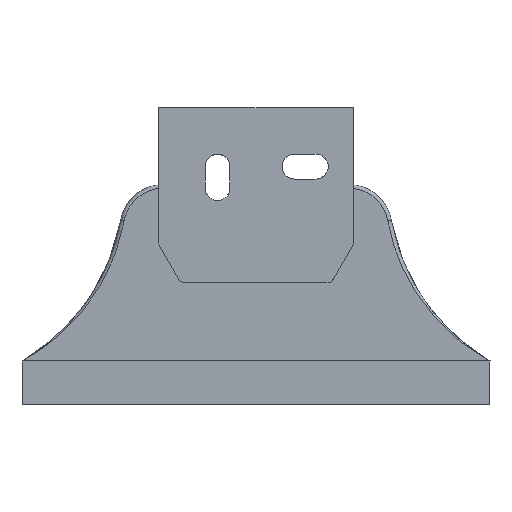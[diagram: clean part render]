
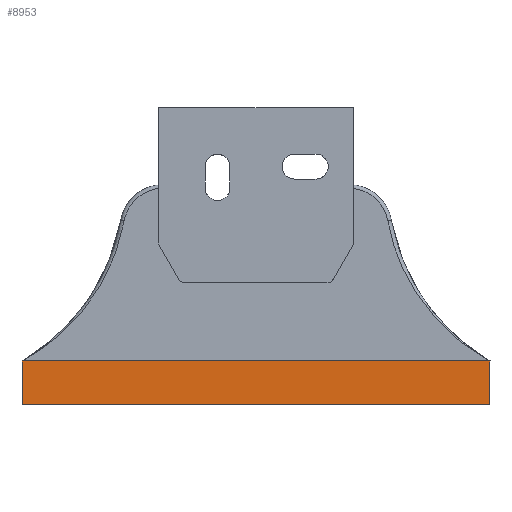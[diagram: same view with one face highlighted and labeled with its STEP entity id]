
A CAD part, front view. The second image highlights one B-rep face of the part: STEP entity #8953.
In plain terms, the highlighted planar face has unit normal (0, -1, -0.009).
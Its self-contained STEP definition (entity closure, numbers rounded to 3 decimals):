
#177 = EDGE_CURVE ( 'NONE', #7865, #3411, #4032, .T. ) ;
#545 = LINE ( 'NONE', #3553, #6898 ) ;
#658 = CARTESIAN_POINT ( 'NONE',  ( 0., -7.5, 0. ) ) ;
#964 = CARTESIAN_POINT ( 'NONE',  ( 32.448, -7.448, -6. ) ) ;
#1019 = LINE ( 'NONE', #7124, #8627 ) ;
#1179 = DIRECTION ( 'NONE',  ( 0., -1., -0.009 ) ) ;
#1181 = EDGE_CURVE ( 'NONE', #7865, #3579, #1019, .T. ) ;
#1374 = VERTEX_POINT ( 'NONE', #4346 ) ;
#1579 = CARTESIAN_POINT ( 'NONE',  ( -32.5, -7.5, 0. ) ) ;
#1676 = DIRECTION ( 'NONE',  ( 0., 0.009, -1. ) ) ;
#1920 = DIRECTION ( 'NONE',  ( 1., 0., 0. ) ) ;
#2182 = DIRECTION ( 'NONE',  ( 1., 0., 0. ) ) ;
#2606 = EDGE_LOOP ( 'NONE', ( #8534, #2847, #6159, #4406 ) ) ;
#2847 = ORIENTED_EDGE ( 'NONE', *, *, #1181, .F. ) ;
#3277 = AXIS2_PLACEMENT_3D ( 'NONE', #1579, #1179, #1676 ) ;
#3411 = VERTEX_POINT ( 'NONE', #964 ) ;
#3553 = CARTESIAN_POINT ( 'NONE',  ( 32.495, -7.495, -0.567 ) ) ;
#3579 = VERTEX_POINT ( 'NONE', #6607 ) ;
#4032 = LINE ( 'NONE', #7844, #8911 ) ;
#4172 = PLANE ( 'NONE',  #3277 ) ;
#4346 = CARTESIAN_POINT ( 'NONE',  ( 32.5, -7.5, 0. ) ) ;
#4406 = ORIENTED_EDGE ( 'NONE', *, *, #8745, .T. ) ;
#5084 = VECTOR ( 'NONE', #2182, 1000. ) ;
#6159 = ORIENTED_EDGE ( 'NONE', *, *, #177, .T. ) ;
#6607 = CARTESIAN_POINT ( 'NONE',  ( -32.5, -7.5, 0. ) ) ;
#6854 = EDGE_CURVE ( 'NONE', #3579, #1374, #8937, .T. ) ;
#6898 = VECTOR ( 'NONE', #7858, 1000. ) ;
#7124 = CARTESIAN_POINT ( 'NONE',  ( -32.499, -7.499, -0.131 ) ) ;
#7678 = CARTESIAN_POINT ( 'NONE',  ( -32.448, -7.448, -6. ) ) ;
#7844 = CARTESIAN_POINT ( 'NONE',  ( 0., -7.448, -6. ) ) ;
#7858 = DIRECTION ( 'NONE',  ( 0.009, -0.009, 1. ) ) ;
#7865 = VERTEX_POINT ( 'NONE', #7678 ) ;
#8409 = DIRECTION ( 'NONE',  ( -0.009, -0.009, 1. ) ) ;
#8534 = ORIENTED_EDGE ( 'NONE', *, *, #6854, .F. ) ;
#8627 = VECTOR ( 'NONE', #8409, 1000. ) ;
#8745 = EDGE_CURVE ( 'NONE', #3411, #1374, #545, .T. ) ;
#8911 = VECTOR ( 'NONE', #1920, 1000. ) ;
#8937 = LINE ( 'NONE', #658, #5084 ) ;
#8953 = ADVANCED_FACE ( 'NONE', ( #9167 ), #4172, .T. ) ;
#9167 = FACE_OUTER_BOUND ( 'NONE', #2606, .T. ) ;
